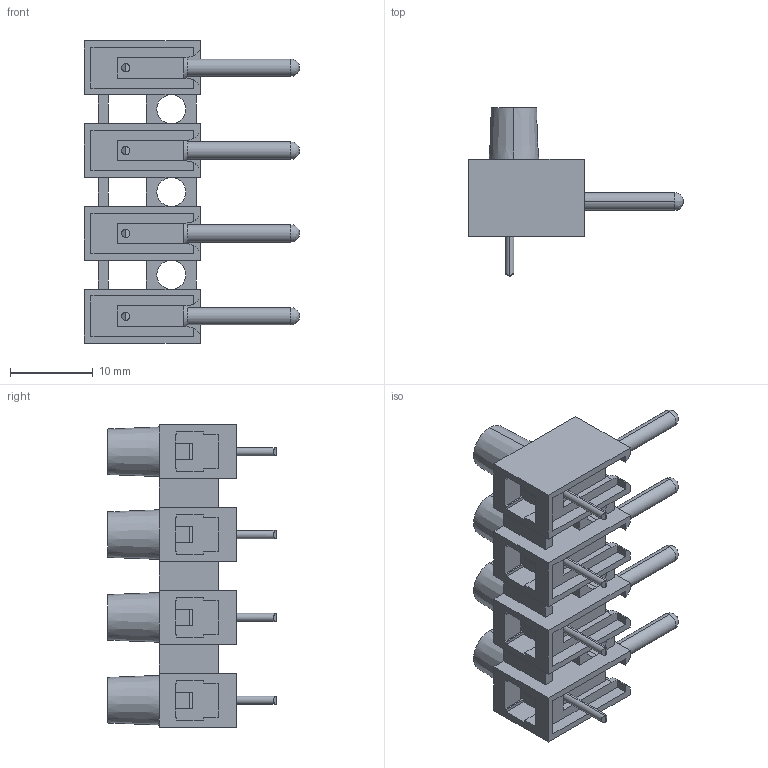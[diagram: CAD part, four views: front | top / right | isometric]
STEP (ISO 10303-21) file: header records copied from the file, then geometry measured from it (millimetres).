
FILE_DESCRIPTION (( 'STEP AP214' ), '1' );
FILE_NAME ('322-SVG-DS-04.STEP', '2007-10-23T03:02:44', ( ' ' ), ( '' ), 'SwSTEP 2.0', 'SolidWorks 2007', '' );
FILE_SCHEMA (( 'AUTOMOTIVE_DESIGN' ));
Length unit declared in the file: millimetre
Products named in the file (1): 322-SVG-DS-04
Bounding box: 26 x 20.3 x 36.5 mm (x, y, z)
Volume: 3484 mm3; surface area: 4369.7 mm2
Topology: 1 solids, 1 shells, 416 faces, 1194 edges, 774 vertices
Faces by surface type: plane 242, cylinder 114, cone 36, bspline 24
Entity records: 19101 total; most frequent: CARTESIAN_POINT 3538, ORIENTED_EDGE 2372, DIRECTION 2220, EDGE_CURVE 1186, LINE 776, VECTOR 776, VERTEX_POINT 774, AXIS2_PLACEMENT_3D 722
